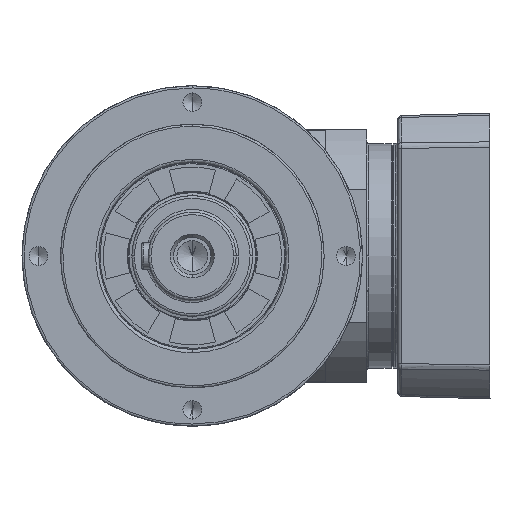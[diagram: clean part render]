
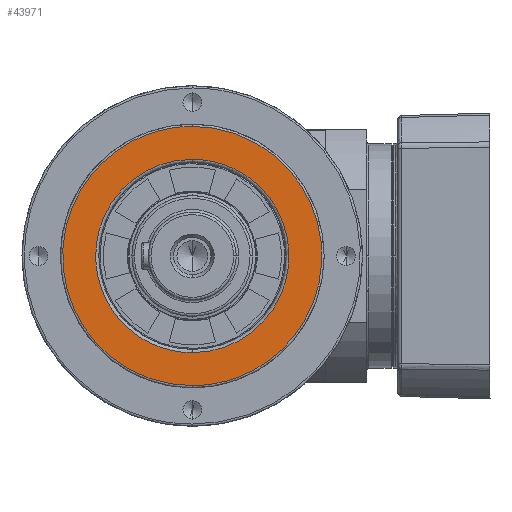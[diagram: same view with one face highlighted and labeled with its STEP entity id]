
A CAD part, left-side view. The second image highlights one B-rep face of the part: STEP entity #43971.
In plain terms, the highlighted planar face has unit normal (-1, 0, 0).
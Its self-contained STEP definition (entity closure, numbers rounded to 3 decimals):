
#584 = CARTESIAN_POINT ( 'NONE',  ( -51.28, -90.68, 106.5 ) ) ;
#1334 = CARTESIAN_POINT ( 'NONE',  ( -51.28, -90.68, 194.5 ) ) ;
#2348 = CARTESIAN_POINT ( 'NONE',  ( -51.28, -2.68, 209.5 ) ) ;
#3159 = PLANE ( 'NONE',  #53636 ) ;
#8492 =( BOUNDED_CURVE ( )  B_SPLINE_CURVE ( 3, ( #134689, #66761, #32381, #111525 ),
 .UNSPECIFIED., .F., .T. ) 
 B_SPLINE_CURVE_WITH_KNOTS ( ( 4, 4 ),
 ( 0., 1. ),
 .UNSPECIFIED. ) 
 CURVE ( )  GEOMETRIC_REPRESENTATION_ITEM ( )  RATIONAL_B_SPLINE_CURVE ( ( 0.957, 0.319, 0.319, 0.957 ) ) 
 REPRESENTATION_ITEM ( '' )  );
#9443 = CARTESIAN_POINT ( 'NONE',  ( -51.28, -2.68, 194.5 ) ) ;
#12348 = EDGE_CURVE ( 'NONE', #80299, #112234, #59058, .T. ) ;
#23442 = VERTEX_POINT ( 'NONE', #9443 ) ;
#26294 = DIRECTION ( 'NONE',  ( 1., 0., 0. ) ) ;
#26848 = CARTESIAN_POINT ( 'NONE',  ( -51.28, 85.32, 106.5 ) ) ;
#28332 = CARTESIAN_POINT ( 'NONE',  ( -51.28, -2.68, 194.5 ) ) ;
#32381 = CARTESIAN_POINT ( 'NONE',  ( -51.28, 115.32, 209.5 ) ) ;
#42880 = ORIENTED_EDGE ( 'NONE', *, *, #147442, .F. ) ;
#43971 = ADVANCED_FACE ( 'NONE', ( #74054, #119597 ), #3159, .F. ) ;
#45711 = CARTESIAN_POINT ( 'NONE',  ( -51.28, -120.68, 91.5 ) ) ;
#47279 = CARTESIAN_POINT ( 'NONE',  ( -51.28, -2.68, 209.5 ) ) ;
#52433 = ORIENTED_EDGE ( 'NONE', *, *, #57832, .F. ) ;
#53636 = AXIS2_PLACEMENT_3D ( 'NONE', #94264, #26294, #143462 ) ;
#56851 =( BOUNDED_CURVE ( )  B_SPLINE_CURVE ( 3, ( #28332, #60477, #26848, #71705 ),
 .UNSPECIFIED., .F., .T. ) 
 B_SPLINE_CURVE_WITH_KNOTS ( ( 4, 4 ),
 ( 0., 1. ),
 .UNSPECIFIED. ) 
 CURVE ( )  GEOMETRIC_REPRESENTATION_ITEM ( )  RATIONAL_B_SPLINE_CURVE ( ( 0.957, 0.319, 0.319, 0.957 ) ) 
 REPRESENTATION_ITEM ( '' )  );
#57649 = CARTESIAN_POINT ( 'NONE',  ( -51.28, -120.68, 209.5 ) ) ;
#57722 =( BOUNDED_CURVE ( )  B_SPLINE_CURVE ( 3, ( #70070, #584, #1334, #80530 ),
 .UNSPECIFIED., .F., .T. ) 
 B_SPLINE_CURVE_WITH_KNOTS ( ( 4, 4 ),
 ( 0., 1. ),
 .UNSPECIFIED. ) 
 CURVE ( )  GEOMETRIC_REPRESENTATION_ITEM ( )  RATIONAL_B_SPLINE_CURVE ( ( 0.957, 0.319, 0.319, 0.957 ) ) 
 REPRESENTATION_ITEM ( '' )  );
#57761 = VERTEX_POINT ( 'NONE', #61214 ) ;
#57832 = EDGE_CURVE ( 'NONE', #23442, #57761, #56851, .T. ) ;
#59058 =( BOUNDED_CURVE ( )  B_SPLINE_CURVE ( 3, ( #2348, #57649, #45711, #127066 ),
 .UNSPECIFIED., .F., .T. ) 
 B_SPLINE_CURVE_WITH_KNOTS ( ( 4, 4 ),
 ( 0., 1. ),
 .UNSPECIFIED. ) 
 CURVE ( )  GEOMETRIC_REPRESENTATION_ITEM ( )  RATIONAL_B_SPLINE_CURVE ( ( 0.957, 0.319, 0.319, 0.957 ) ) 
 REPRESENTATION_ITEM ( '' )  );
#60477 = CARTESIAN_POINT ( 'NONE',  ( -51.28, 85.32, 194.5 ) ) ;
#60775 = EDGE_CURVE ( 'NONE', #57761, #23442, #57722, .T. ) ;
#60872 = ORIENTED_EDGE ( 'NONE', *, *, #60775, .F. ) ;
#61214 = CARTESIAN_POINT ( 'NONE',  ( -51.28, -2.68, 106.5 ) ) ;
#66761 = CARTESIAN_POINT ( 'NONE',  ( -51.28, 115.32, 91.5 ) ) ;
#70070 = CARTESIAN_POINT ( 'NONE',  ( -51.28, -2.68, 106.5 ) ) ;
#71705 = CARTESIAN_POINT ( 'NONE',  ( -51.28, -2.68, 106.5 ) ) ;
#74054 = FACE_BOUND ( 'NONE', #80359, .T. ) ;
#78675 = EDGE_LOOP ( 'NONE', ( #42880, #114504 ) ) ;
#80299 = VERTEX_POINT ( 'NONE', #47279 ) ;
#80359 = EDGE_LOOP ( 'NONE', ( #52433, #60872 ) ) ;
#80530 = CARTESIAN_POINT ( 'NONE',  ( -51.28, -2.68, 194.5 ) ) ;
#94264 = CARTESIAN_POINT ( 'NONE',  ( -51.28, -62.388, 90.792 ) ) ;
#105795 = CARTESIAN_POINT ( 'NONE',  ( -51.28, -2.68, 91.5 ) ) ;
#111525 = CARTESIAN_POINT ( 'NONE',  ( -51.28, -2.68, 209.5 ) ) ;
#112234 = VERTEX_POINT ( 'NONE', #105795 ) ;
#114504 = ORIENTED_EDGE ( 'NONE', *, *, #12348, .F. ) ;
#119597 = FACE_OUTER_BOUND ( 'NONE', #78675, .T. ) ;
#127066 = CARTESIAN_POINT ( 'NONE',  ( -51.28, -2.68, 91.5 ) ) ;
#134689 = CARTESIAN_POINT ( 'NONE',  ( -51.28, -2.68, 91.5 ) ) ;
#143462 = DIRECTION ( 'NONE',  ( 0., 1., 0. ) ) ;
#147442 = EDGE_CURVE ( 'NONE', #112234, #80299, #8492, .T. ) ;
